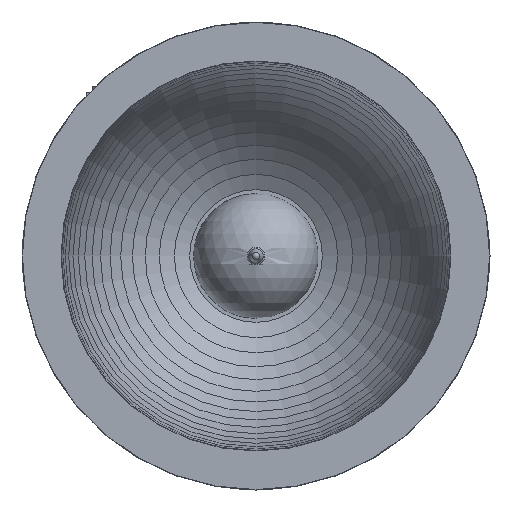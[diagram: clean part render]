
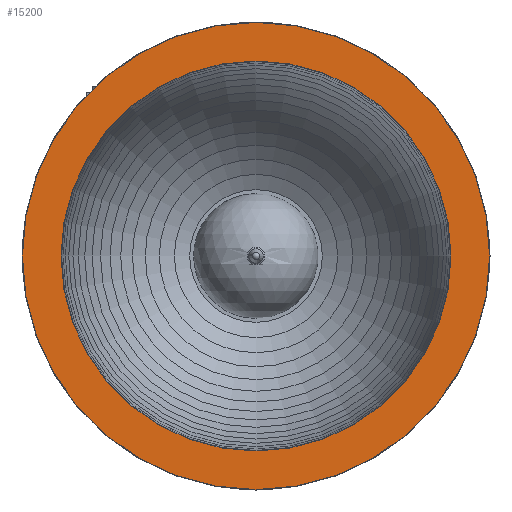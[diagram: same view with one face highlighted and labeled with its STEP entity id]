
A CAD part, front view. The second image highlights one B-rep face of the part: STEP entity #15200.
In plain terms, the highlighted planar face has unit normal (0, -1, 0).
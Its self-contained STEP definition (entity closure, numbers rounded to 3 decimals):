
#3478=FACE_BOUND('',#4480,.T.);
#3655=FACE_OUTER_BOUND('',#4479,.T.);
#4479=EDGE_LOOP('',(#10325));
#4480=EDGE_LOOP('',(#10326,#10327));
#5465=CIRCLE('',#16551,59.9);
#5470=CIRCLE('',#16558,50.);
#5471=CIRCLE('',#16559,50.);
#6345=VERTEX_POINT('',#23375);
#6360=VERTEX_POINT('',#23552);
#6361=VERTEX_POINT('',#23553);
#7924=EDGE_CURVE('',#6345,#6345,#5465,.T.);
#7942=EDGE_CURVE('',#6360,#6361,#5470,.T.);
#7943=EDGE_CURVE('',#6361,#6360,#5471,.T.);
#10325=ORIENTED_EDGE('',*,*,#7924,.F.);
#10326=ORIENTED_EDGE('',*,*,#7942,.F.);
#10327=ORIENTED_EDGE('',*,*,#7943,.F.);
#14662=PLANE('',#16557);
#15200=ADVANCED_FACE('',(#3655,#3478),#14662,.T.);
#16551=AXIS2_PLACEMENT_3D('',#23376,#18539,#18540);
#16557=AXIS2_PLACEMENT_3D('',#23551,#18554,#18555);
#16558=AXIS2_PLACEMENT_3D('',#23554,#18556,#18557);
#16559=AXIS2_PLACEMENT_3D('',#23555,#18558,#18559);
#18539=DIRECTION('center_axis',(0.,1.,0.));
#18540=DIRECTION('ref_axis',(-1.,0.,0.));
#18554=DIRECTION('center_axis',(0.,-1.,0.));
#18555=DIRECTION('ref_axis',(0.,0.,-1.));
#18556=DIRECTION('center_axis',(0.,-1.,0.));
#18557=DIRECTION('ref_axis',(1.,0.,0.));
#18558=DIRECTION('center_axis',(0.,-1.,0.));
#18559=DIRECTION('ref_axis',(1.,0.,0.));
#23375=CARTESIAN_POINT('',(59.9,0.,0.));
#23376=CARTESIAN_POINT('Origin',(0.,0.,0.));
#23551=CARTESIAN_POINT('Origin',(50.,0.,0.));
#23552=CARTESIAN_POINT('',(50.,0.,0.));
#23553=CARTESIAN_POINT('',(-50.,0.,0.));
#23554=CARTESIAN_POINT('Origin',(0.,0.,0.));
#23555=CARTESIAN_POINT('Origin',(0.,0.,0.));
